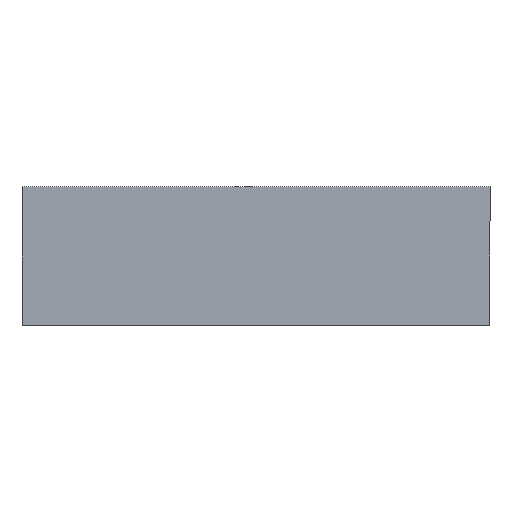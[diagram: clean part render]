
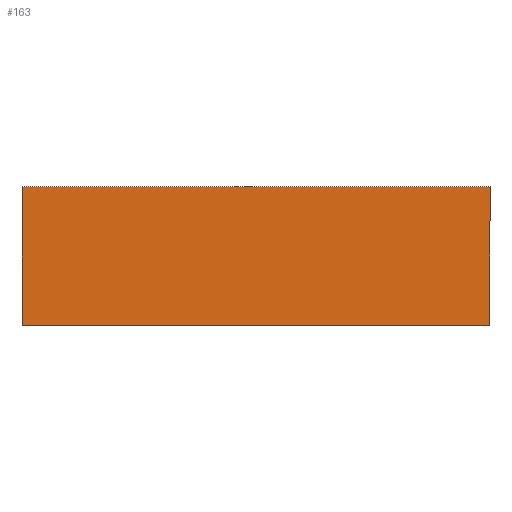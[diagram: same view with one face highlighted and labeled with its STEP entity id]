
A CAD part, front view. The second image highlights one B-rep face of the part: STEP entity #163.
In plain terms, the highlighted planar face has unit normal (0, -1, 0).
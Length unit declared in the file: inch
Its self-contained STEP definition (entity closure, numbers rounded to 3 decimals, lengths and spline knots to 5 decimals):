
#90 = CARTESIAN_POINT ( 'NONE',  ( -26.28987, -4.54, -7.78987 ) ) ;
#163 = ADVANCED_FACE ( 'NONE', ( #572 ), #3106, .T. ) ;
#191 = CARTESIAN_POINT ( 'NONE',  ( -26.28987, -4.54, -7.78987 ) ) ;
#252 = CARTESIAN_POINT ( 'NONE',  ( -26.28987, -4.54, -7.78987 ) ) ;
#493 = LINE ( 'NONE', #2818, #2783 ) ;
#572 = FACE_OUTER_BOUND ( 'NONE', #14021, .T. ) ;
#649 = CARTESIAN_POINT ( 'NONE',  ( -25.5, -4.54, -7. ) ) ;
#684 = ORIENTED_EDGE ( 'NONE', *, *, #6330, .F. ) ;
#1012 = EDGE_CURVE ( 'NONE', #10360, #4196, #9786, .T. ) ;
#1343 = LINE ( 'NONE', #191, #7167 ) ;
#1661 = DIRECTION ( 'NONE',  ( 0., 0., -1. ) ) ;
#1676 = EDGE_CURVE ( 'NONE', #1878, #10360, #493, .T. ) ;
#1878 = VERTEX_POINT ( 'NONE', #14120 ) ;
#1885 = ORIENTED_EDGE ( 'NONE', *, *, #1012, .F. ) ;
#2783 = VECTOR ( 'NONE', #1661, 39.37008 ) ;
#2818 = CARTESIAN_POINT ( 'NONE',  ( 26.28987, -4.54, -7.78987 ) ) ;
#3106 = PLANE ( 'NONE',  #14123 ) ;
#4196 = VERTEX_POINT ( 'NONE', #90 ) ;
#4262 = DIRECTION ( 'NONE',  ( 0., 0., -1. ) ) ;
#4287 = CARTESIAN_POINT ( 'NONE',  ( 26.28987, -4.54, -7.78987 ) ) ;
#4791 = CARTESIAN_POINT ( 'NONE',  ( -26.28987, -4.54, 7.78987 ) ) ;
#4883 = DIRECTION ( 'NONE',  ( 0., 0., 1. ) ) ;
#5316 = EDGE_CURVE ( 'NONE', #14342, #1878, #10323, .T. ) ;
#5664 = CARTESIAN_POINT ( 'NONE',  ( -26.28987, -4.54, 7.78987 ) ) ;
#6330 = EDGE_CURVE ( 'NONE', #4196, #14342, #1343, .T. ) ;
#6928 = ORIENTED_EDGE ( 'NONE', *, *, #5316, .F. ) ;
#7167 = VECTOR ( 'NONE', #4883, 39.37008 ) ;
#8493 = VECTOR ( 'NONE', #14355, 39.37008 ) ;
#9786 = LINE ( 'NONE', #252, #8493 ) ;
#10323 = LINE ( 'NONE', #4791, #15103 ) ;
#10360 = VERTEX_POINT ( 'NONE', #4287 ) ;
#12349 = DIRECTION ( 'NONE',  ( 0., -1., 0. ) ) ;
#14021 = EDGE_LOOP ( 'NONE', ( #684, #1885, #15096, #6928 ) ) ;
#14120 = CARTESIAN_POINT ( 'NONE',  ( 26.28987, -4.54, 7.78987 ) ) ;
#14123 = AXIS2_PLACEMENT_3D ( 'NONE', #649, #12349, #4262 ) ;
#14342 = VERTEX_POINT ( 'NONE', #5664 ) ;
#14355 = DIRECTION ( 'NONE',  ( -1., 0., 0. ) ) ;
#15096 = ORIENTED_EDGE ( 'NONE', *, *, #1676, .F. ) ;
#15103 = VECTOR ( 'NONE', #15112, 39.37008 ) ;
#15112 = DIRECTION ( 'NONE',  ( 1., 0., 0. ) ) ;
